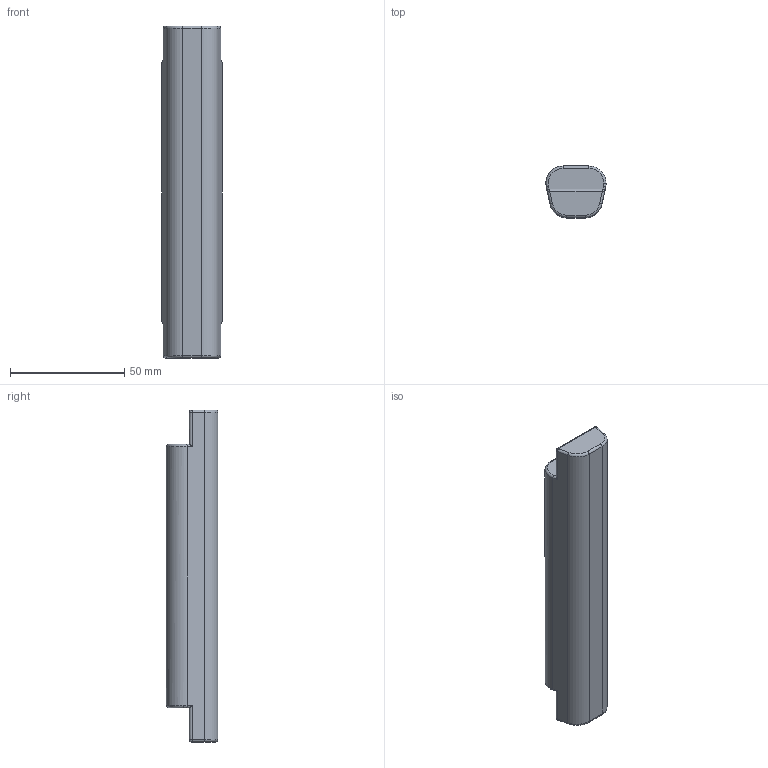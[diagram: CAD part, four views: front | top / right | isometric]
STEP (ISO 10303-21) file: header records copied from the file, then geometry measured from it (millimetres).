
FILE_DESCRIPTION (( 'STEP AP203' ), '1' );
FILE_NAME ('handle.STEP', '2026-02-26T11:28:55', ( '' ), ( '' ), 'SwSTEP 2.0', 'SolidWorks 2025', '' );
FILE_SCHEMA (( 'CONFIG_CONTROL_DESIGN' ));
Length unit declared in the file: millimetre
Products named in the file (1): handle
Bounding box: 26.3 x 22.5 x 145 mm (x, y, z)
Volume: 66474.3 mm3; surface area: 12298.4 mm2
Topology: 1 solids, 1 shells, 56 faces, 139 edges, 81 vertices
Faces by surface type: cylinder 25, plane 15, torus 10, sphere 4, bspline 2
Entity records: 1701 total; most frequent: CARTESIAN_POINT 327, DIRECTION 292, ORIENTED_EDGE 266, EDGE_CURVE 133, AXIS2_PLACEMENT_3D 116, VERTEX_POINT 79, CIRCLE 61, VECTOR 60
